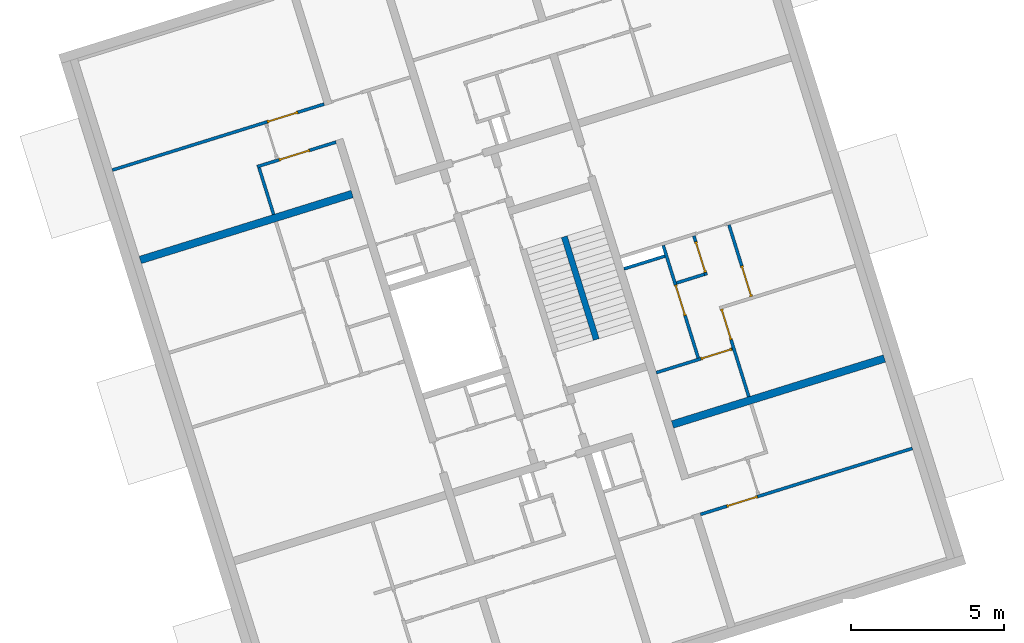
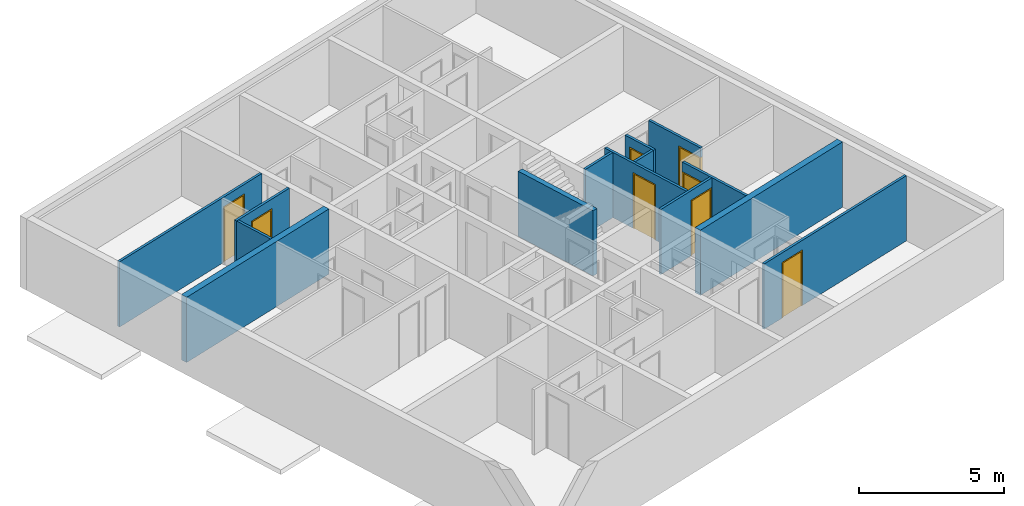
# One storey, part 4 of 9: 14 walls, 8 doors, 8 openings.
"""IFC4 building model written with IfcOpenShell, lengths in metres."""

from ifc_helpers import new_model, entity, si_unit, converted_unit, direction, frame, origin, place, context, subcontext, project, spatial, indexed_curve, outline, extrude, polygons, source, transform, mapped, material, constituent, constituent_set, type_object, type_shapes, element, fill, save


model = new_model("IFC4")

# Units and contexts
model_context = context("Model", 3, precision=1e-05, world=origin(), true_north=direction((6.12323399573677e-17, 1.0)))
body_context = subcontext(model_context, "Body", "Model", "MODEL_VIEW")
ifc_project = project(units=[si_unit("LENGTHUNIT", "METRE"), si_unit("AREAUNIT", "SQUARE_METRE"), si_unit("VOLUMEUNIT", "CUBIC_METRE"), converted_unit("PLANEANGLEUNIT", "DEGREE", entity("IfcPlaneAngleMeasure", 0.0174532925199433), si_unit("PLANEANGLEUNIT", "RADIAN"), dimensions=[0, 0, 0, 0, 0, 0, 0])], contexts=[model_context])

# Site, building, storey
site_placement = place(None, frame((13.1347999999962, 11.9886000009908, 0.0), z_axis=(0.0, 0.0, 1.0), x_axis=(0.954770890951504, 0.297342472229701, 0.0)))
site = spatial("IfcSite", under=ifc_project, at=site_placement, Name="Schiehaven", CompositionType="ELEMENT")
building_placement = place(site_placement, origin())
building = spatial("IfcBuilding", under=site, at=building_placement, Name="VORM huis", CompositionType="ELEMENT")
storey_placement = place(building_placement, frame((0.0, 0.0, 18.9)))
storey = spatial("IfcBuildingStorey", under=building, at=storey_placement, Name="06 zesde verdieping", CompositionType="ELEMENT", Elevation=18.9)

# Walls
ifc_material_1 = material(Name="beton_gewapend_prefab-element", Category="Miscellaneous")
wall_type_1 = type_object("IfcWallType", Name="Basic Wall:28_WA_skelet_wand 200mm_gen", PredefinedType="STANDARD")
wall_1_placement = place(storey_placement, frame((18.5750000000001, 15.29, 0.0), z_axis=(0.0, 0.0, 1.0), x_axis=(0.0, 1.0, 0.0)))
element("IfcWall", 1, at=wall_1_placement, inside=storey, type_object=wall_type_1, material=ifc_material_1, Name="Constructieve wand", ObjectType="Wand", PredefinedType="NOTDEFINED", context=body_context, shape_type="SweptSolid", body=[
    extrude(outline(indexed_curve([(3.52, 0.0999999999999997), (-6.36077049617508e-16, 0.0999999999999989), (6.36077049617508e-16, -0.0999999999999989), (3.52, -0.0999999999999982), (3.52, 0.0999999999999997)], self_intersect=False)), origin(), (0.0, 0.0, 1.0), 2.75),
])
ifc_material_2 = material(Name="ntb_ntb_ntb", Category="Miscellaneous")
wall_type_2 = type_object("IfcWallType", Name="Basic Wall:22_WA_afbouw_binnenwand 250mm_gen", PredefinedType="STANDARD")
wall_2_placement = place(storey_placement, frame((12.3750000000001, 22.2, 0.0), z_axis=(0.0, 0.0, 1.0), x_axis=(-1.0, 0.0, 0.0)))
element("IfcWall", 2, at=wall_2_placement, inside=storey, type_object=wall_type_2, material=ifc_material_2, Name="Binnenwand", ObjectType="Wand", PredefinedType="NOTDEFINED", context=body_context, shape_type="SweptSolid", body=[
    extrude(outline(indexed_curve([(7.24999999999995, 0.125000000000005), (-4.9649652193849e-16, 0.125000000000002), (4.9649652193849e-16, -0.125000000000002), (7.24999999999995, -0.124999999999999), (7.24999999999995, 0.125000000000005)], self_intersect=False)), origin(), (0.0, 0.0, 1.0), 2.75),
])
wall_3_placement = place(storey_placement, frame((20.125, 11.9, 0.0)))
element("IfcWall", 3, at=wall_3_placement, inside=storey, type_object=wall_type_2, material=ifc_material_2, Name="Binnenwand", ObjectType="Wand", PredefinedType="NOTDEFINED", context=body_context, shape_type="SweptSolid", body=[
    extrude(outline(indexed_curve([(7.24999999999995, 0.125), (-1.92055213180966e-16, 0.125), (1.92055213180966e-16, -0.125), (7.24999999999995, -0.124999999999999), (7.24999999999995, 0.125)], self_intersect=False)), origin(), (0.0, 0.0, 1.0), 2.75),
])

# Wall, opening, door
wall_type_3 = type_object("IfcWallType", Name="Basic Wall:22_WA_afbouw_binnenwand 100mm_gen", PredefinedType="STANDARD")
wall_4_placement = place(storey_placement, frame((27.3750000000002, 8.82499999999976, 0.0), z_axis=(0.0, 0.0, 1.0), x_axis=(-1.0, 0.0, 0.0)))
wall_4 = element("IfcWall", 4, at=wall_4_placement, inside=storey, type_object=wall_type_3, material=ifc_material_2, Name="Binnenwand", ObjectType="Wand", PredefinedType="NOTDEFINED", context=body_context, shape_type="Tessellation", body=[
    polygons([(6.35000000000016, -0.0500000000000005, 2.34999999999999), (6.35000000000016, -0.0500000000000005, 2.16573425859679e-15), (7.25000000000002, -0.0500000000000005, 2.16573425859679e-15), (7.25000000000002, -0.0500000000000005, 2.75), (5.30000000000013, -0.0500000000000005, 2.75), (5.20000000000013, -0.0500000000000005, 2.75), (5.16304195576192e-15, -0.0500000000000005, 2.75), (5.16304195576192e-15, -0.0500000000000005, 2.16573425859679e-15), (5.20000000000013, -0.0500000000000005, 2.16573425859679e-15), (5.30000000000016, -0.0500000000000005, 2.16573425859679e-15), (5.30000000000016, -0.0500000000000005, 2.34999999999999), (7.25000000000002, 0.0499999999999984, 2.16573425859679e-15), (6.35000000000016, 0.0499999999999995, 2.16573425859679e-15), (6.35000000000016, 0.0499999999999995, 2.34999999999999), (5.30000000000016, 0.0499999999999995, 2.34999999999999), (5.30000000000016, 0.0499999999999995, 2.16573425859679e-15), (4.86084043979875e-15, 0.0500000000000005, 2.16573425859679e-15), (4.86084043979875e-15, 0.0500000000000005, 2.75), (7.25000000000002, 0.0499999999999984, 2.75)], [[[1, 2, 3, 4, 5, 6, 7, 8, 9, 10, 11]], [[12, 13, 14, 15, 16, 17, 18, 19]], [[10, 9, 8, 17, 16]], [[4, 3, 12, 19]], [[7, 6, 5, 4, 19, 18]], [[8, 7, 18, 17]], [[16, 15, 11, 10]], [[14, 13, 2, 1]], [[15, 14, 1, 11]], [[3, 2, 13, 12]]], closed=True),
])
opening_1_placement = place(wall_4_placement, frame((6.35000000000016, 0.04999999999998, 0.0)))
opening_1 = element("IfcOpeningElement", 5, at=opening_1_placement, cuts=wall_4, Name="Binnendeur", PredefinedType="OPENING", context=body_context, shape_type="SweptSolid", body=[
    extrude(outline(indexed_curve([(2.34999999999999, 1.05), (0.0, 1.05), (0.0, 0.0), (2.34999999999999, 0.0), (2.34999999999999, 1.05)], self_intersect=False)), frame((0.0, 0.0, 0.0), z_axis=(0.0, -1.0, 0.0), x_axis=(0.0, 0.0, 1.0)), (0.0, 0.0, 1.0), 0.1),
])
ifc_material_3 = material(Name="PD_a_binnenwandopeningen", Category="Miscellaneous")
ifc_constituent_1 = constituent(ifc_material_3, Name="PD_a_binnenwandopeningen", Category="Miscellaneous")
ifc_material_4 = material(Name="metaal_aluminium_ntb", Category="Miscellaneous")
ifc_constituent_2 = constituent(ifc_material_4, Name="metaal_aluminium_ntb", Category="Miscellaneous")
ifc_constituent_set_1 = constituent_set(constituents=[ifc_constituent_1, ifc_constituent_2])
door_type = type_object("IfcDoorType", Name="32_DO_binnendeur enkel:binnendeur", OperationType="REVOLVING", PredefinedType="DOOR")
shared_shape = source(origin(), body_context, "Body", "SweptSolid", [
    extrude(outline(indexed_curve([(-1.16249999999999, -0.525000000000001), (1.18749999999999, -0.525), (1.18749999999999, 0.525), (-1.16249999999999, 0.525), (-1.16249999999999, 0.475), (1.13749999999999, 0.475), (1.13749999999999, -0.475), (-1.16249999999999, -0.475), (-1.16249999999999, -0.525000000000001)], self_intersect=False)), frame((0.525000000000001, 0.0, 1.16249999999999), z_axis=(0.0, 1.0, 0.0), x_axis=(0.0, 0.0, 1.0)), (0.0, 0.0, 1.0), 0.1),
    extrude(outline(indexed_curve([(-0.025, -0.475), (0.025, -0.475), (0.025, 0.475), (-0.025, 0.475), (-0.025, -0.475)], self_intersect=False)), frame((0.525000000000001, 0.0499999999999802, 0.0), z_axis=(0.0, 0.0, 1.0), x_axis=(0.0, 1.0, 0.0)), (0.0, 0.0, 1.0), 2.29999999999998),
])
type_shapes(door_type, [shared_shape])
door_1_placement = place(opening_1_placement, frame((0.0, 0.0, 0.0), z_axis=(0.0, 0.0, 1.0), x_axis=(-1.0, 0.0, 0.0)))
door_1 = element("IfcDoor", 6, at=door_1_placement, inside=storey, type_object=door_type, material=ifc_constituent_set_1, Name="Binnendeur", ObjectType="Deur", OperationType="REVOLVING", OverallHeight=2.34999999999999, OverallWidth=1.05, PredefinedType="DOOR", context=body_context, shape_type="MappedRepresentation", body=[
    mapped(shared_shape, transform((0.0, 0.0, 0.0), scale=1.0)),
])
fill(opening_1, door_1)

wall_5_placement = place(storey_placement, frame((22.6250000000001, 16.225, 0.0), z_axis=(0.0, 0.0, 1.0), x_axis=(0.0, 1.0, 0.0)))
wall_5 = element("IfcWall", 7, at=wall_5_placement, inside=storey, type_object=wall_type_3, material=ifc_material_2, Name="Binnenwand", ObjectType="Wand", PredefinedType="NOTDEFINED", context=body_context, shape_type="Tessellation", body=[
    polygons([(1.15, -0.0499999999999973, 2.34999999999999), (1.15, -0.0499999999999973, 2.16573425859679e-15), (1.35, -0.0499999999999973, 2.16573425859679e-15), (1.35, -0.0499999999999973, 2.75), (0.0, -0.0499999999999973, 2.75), (0.0, -0.0499999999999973, 2.16573425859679e-15), (0.100000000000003, -0.0499999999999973, 2.16573425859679e-15), (0.100000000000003, -0.0499999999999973, 2.34999999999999), (1.35, 0.0500000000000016, 2.16573425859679e-15), (1.15, 0.0500000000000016, 2.16573425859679e-15), (1.15, 0.0500000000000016, 2.34999999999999), (0.100000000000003, 0.0500000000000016, 2.34999999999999), (0.100000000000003, 0.0500000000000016, 2.16573425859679e-15), (0.0, 0.0500000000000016, 2.16573425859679e-15), (0.0, 0.0500000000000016, 2.75), (0.100000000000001, 0.0500000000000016, 2.75), (1.35, 0.0500000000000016, 2.75)], [[[1, 2, 3, 4, 5, 6, 7, 8]], [[9, 10, 11, 12, 13, 14, 15, 16, 17]], [[7, 6, 14, 13]], [[5, 4, 17, 16, 15]], [[13, 12, 8, 7]], [[11, 10, 2, 1]], [[12, 11, 1, 8]], [[6, 5, 15, 14]], [[4, 3, 9, 17]], [[3, 2, 10, 9]]], closed=True),
])
opening_2_placement = place(wall_5_placement, frame((1.15000000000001, 0.0500000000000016, 0.0)))
opening_2 = element("IfcOpeningElement", 8, at=opening_2_placement, cuts=wall_5, Name="Binnendeur", PredefinedType="OPENING", context=body_context, shape_type="SweptSolid", body=[
    extrude(outline(indexed_curve([(2.34999999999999, 1.05), (0.0, 1.05), (0.0, 1.35358391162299e-15), (2.34999999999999, 1.35358391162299e-15), (2.34999999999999, 1.05)], self_intersect=False)), frame((0.0, 0.0, 0.0), z_axis=(0.0, -1.0, 0.0), x_axis=(0.0, 0.0, 1.0)), (0.0, 0.0, 1.0), 0.1),
])
ifc_constituent_3 = constituent(ifc_material_3, Name="PD_a_binnenwandopeningen", Category="Miscellaneous")
ifc_constituent_4 = constituent(ifc_material_4, Name="metaal_aluminium_ntb", Category="Miscellaneous")
ifc_constituent_set_2 = constituent_set(constituents=[ifc_constituent_3, ifc_constituent_4])
door_2_placement = place(opening_2_placement, frame((0.0, 0.0, 0.0), z_axis=(0.0, 0.0, 1.0), x_axis=(-1.0, 0.0, 0.0)))
door_2 = element("IfcDoor", 9, at=door_2_placement, inside=storey, type_object=door_type, material=ifc_constituent_set_2, Name="Binnendeur", ObjectType="Deur", OperationType="REVOLVING", OverallHeight=2.34999999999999, OverallWidth=1.05, PredefinedType="DOOR", context=body_context, shape_type="MappedRepresentation", body=[
    mapped(shared_shape, transform((0.0, 0.0, 0.0), scale=1.0)),
])
fill(opening_2, door_2)

# Walls
wall_6_placement = place(storey_placement, frame((21.6250000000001, 16.275, 0.0)))
element("IfcWall", 10, at=wall_6_placement, inside=storey, type_object=wall_type_3, material=ifc_material_2, Name="Binnenwand", ObjectType="Wand", PredefinedType="NOTDEFINED", context=body_context, shape_type="SweptSolid", body=[
    extrude(outline(indexed_curve([(0.950000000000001, 0.0499999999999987), (-1.88291440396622e-16, 0.0499999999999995), (1.88291440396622e-16, -0.0499999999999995), (0.950000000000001, -0.0500000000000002), (0.950000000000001, 0.0499999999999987)], self_intersect=False)), origin(), (0.0, 0.0, 1.0), 2.75),
])
wall_7_placement = place(storey_placement, frame((20.1228357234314, 17.225, 0.0)))
element("IfcWall", 11, at=wall_7_placement, inside=storey, type_object=wall_type_3, material=ifc_material_2, Name="Binnenwand", ObjectType="Wand", PredefinedType="NOTDEFINED", context=body_context, shape_type="SweptSolid", body=[
    extrude(outline(indexed_curve([(1.40216427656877, 0.0500000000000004), (-1.88291440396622e-16, 0.0499999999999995), (1.88291440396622e-16, -0.0499999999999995), (1.40216427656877, -0.0499999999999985), (1.40216427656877, 0.0500000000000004)], self_intersect=False)), origin(), (0.0, 0.0, 1.0), 2.75),
])

# Wall, opening, door
wall_8_placement = place(storey_placement, frame((23.8250000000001, 15.125, 0.0), z_axis=(0.0, 0.0, 1.0), x_axis=(0.0, 1.0, 0.0)))
wall_8 = element("IfcWall", 12, at=wall_8_placement, inside=storey, type_object=wall_type_3, material=ifc_material_2, Name="Binnenwand", ObjectType="Wand", PredefinedType="NOTDEFINED", context=body_context, shape_type="Tessellation", body=[
    polygons([(2.45, -0.0499999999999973, 2.75), (0.0, -0.0499999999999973, 2.75), (0.0, -0.0499999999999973, 2.34999999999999), (1.05, -0.0499999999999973, 2.34999999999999), (1.05, -0.0499999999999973, 2.16573425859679e-15), (2.45, -0.0499999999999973, 2.16573425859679e-15), (0.0, 0.0500000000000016, 2.75), (2.45, 0.0500000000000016, 2.75), (2.45, 0.0500000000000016, 2.16573425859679e-15), (1.05, 0.0500000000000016, 2.16573425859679e-15), (1.05, 0.0500000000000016, 2.34999999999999), (0.0, 0.0500000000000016, 2.34999999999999)], [[[1, 2, 3, 4, 5, 6]], [[7, 8, 9, 10, 11, 12]], [[9, 6, 5, 10]], [[2, 1, 8, 7]], [[4, 11, 10, 5]], [[11, 4, 3, 12]], [[2, 7, 12, 3]], [[1, 6, 9, 8]]], closed=True),
])
opening_3_placement = place(wall_8_placement, frame((0.0, -0.050000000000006, 0.0)))
opening_3 = element("IfcOpeningElement", 13, at=opening_3_placement, cuts=wall_8, Name="Binnendeur", PredefinedType="OPENING", context=body_context, shape_type="SweptSolid", body=[
    extrude(outline(indexed_curve([(2.34999999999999, 1.05), (0.0, 1.05), (0.0, 1.35358391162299e-15), (2.34999999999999, 1.35358391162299e-15), (2.34999999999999, 1.05)], self_intersect=False)), frame((0.0, 0.0, 0.0), z_axis=(0.0, 1.0, 0.0), x_axis=(0.0, 0.0, 1.0)), (0.0, 0.0, 1.0), 0.1),
])
ifc_constituent_5 = constituent(ifc_material_3, Name="PD_a_binnenwandopeningen", Category="Miscellaneous")
ifc_constituent_6 = constituent(ifc_material_4, Name="metaal_aluminium_ntb", Category="Miscellaneous")
ifc_constituent_set_3 = constituent_set(constituents=[ifc_constituent_5, ifc_constituent_6])
door_3_placement = place(opening_3_placement, origin())
door_3 = element("IfcDoor", 14, at=door_3_placement, inside=storey, type_object=door_type, material=ifc_constituent_set_3, Name="Binnendeur", ObjectType="Deur", OperationType="REVOLVING", OverallHeight=2.34999999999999, OverallWidth=1.05, PredefinedType="DOOR", context=body_context, shape_type="MappedRepresentation", body=[
    mapped(shared_shape, transform((0.0, 0.0, 0.0), scale=1.0)),
])
fill(opening_3, door_3)

wall_9_placement = place(storey_placement, frame((22.7750000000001, 12.025, 0.0), z_axis=(0.0, 0.0, 1.0), x_axis=(0.0, 1.0, 0.0)))
wall_9 = element("IfcWall", 15, at=wall_9_placement, inside=storey, type_object=wall_type_3, material=ifc_material_2, Name="Binnenwand", ObjectType="Wand", PredefinedType="NOTDEFINED", context=body_context, shape_type="Tessellation", body=[
    polygons([(3.00000000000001, -0.0499999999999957, 2.75), (0.0, -0.049999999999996, 2.75), (0.0, -0.049999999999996, 2.16573425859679e-15), (1.95000000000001, -0.0499999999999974, 2.16573425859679e-15), (1.95000000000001, -0.0499999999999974, 2.34999999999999), (3.00000000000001, -0.0499999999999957, 2.34999999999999), (0.0, 0.0500000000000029, 2.75), (1.60000000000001, 0.050000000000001, 2.75), (1.70000000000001, 0.0500000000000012, 2.75), (3.00000000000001, 0.0500000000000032, 2.75), (3.00000000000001, 0.0500000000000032, 2.34999999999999), (1.95000000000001, 0.0500000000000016, 2.34999999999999), (1.95000000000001, 0.0500000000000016, 2.16573425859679e-15), (1.70000000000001, 0.0500000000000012, 2.16573425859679e-15), (1.60000000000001, 0.050000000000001, 2.16573425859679e-15), (0.0, 0.0500000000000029, 2.16573425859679e-15)], [[[1, 2, 3, 4, 5, 6]], [[7, 8, 9, 10, 11, 12, 13, 14, 15, 16]], [[3, 16, 15, 14, 13, 4]], [[2, 1, 10, 9, 8, 7]], [[3, 2, 7, 16]], [[12, 5, 4, 13]], [[5, 12, 11, 6]], [[10, 1, 6, 11]]], closed=True),
])
opening_4_placement = place(wall_9_placement, frame((1.95000000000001, -0.0500000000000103, 0.0)))
opening_4 = element("IfcOpeningElement", 16, at=opening_4_placement, cuts=wall_9, Name="Binnendeur", PredefinedType="OPENING", context=body_context, shape_type="SweptSolid", body=[
    extrude(outline(indexed_curve([(2.34999999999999, 1.05), (0.0, 1.05), (0.0, 1.35358391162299e-15), (2.34999999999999, 1.35358391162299e-15), (2.34999999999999, 1.05)], self_intersect=False)), frame((0.0, 0.0, 0.0), z_axis=(0.0, 1.0, 0.0), x_axis=(0.0, 0.0, 1.0)), (0.0, 0.0, 1.0), 0.1),
])
ifc_constituent_7 = constituent(ifc_material_3, Name="PD_a_binnenwandopeningen", Category="Miscellaneous")
ifc_constituent_8 = constituent(ifc_material_4, Name="metaal_aluminium_ntb", Category="Miscellaneous")
ifc_constituent_set_4 = constituent_set(constituents=[ifc_constituent_7, ifc_constituent_8])
door_4_placement = place(opening_4_placement, origin())
door_4 = element("IfcDoor", 17, at=door_4_placement, inside=storey, type_object=door_type, material=ifc_constituent_set_4, Name="Binnendeur", ObjectType="Deur", OperationType="REVOLVING", OverallHeight=2.34999999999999, OverallWidth=1.05, PredefinedType="DOOR", context=body_context, shape_type="MappedRepresentation", body=[
    mapped(shared_shape, transform((0.0, 0.0, 0.0), scale=1.0)),
])
fill(opening_4, door_4)

wall_10_placement = place(storey_placement, frame((22.7250000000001, 13.675, 0.0), z_axis=(0.0, 0.0, 1.0), x_axis=(-1.0, 0.0, 0.0)))
wall_10 = element("IfcWall", 18, at=wall_10_placement, inside=storey, type_object=wall_type_3, material=ifc_material_2, Name="Binnenwand", ObjectType="Wand", PredefinedType="NOTDEFINED", context=body_context, shape_type="Tessellation", body=[
    polygons([(1.075, -0.0499999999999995, 2.34999999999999), (1.075, -0.0499999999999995, 2.16573425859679e-15), (1.1, -0.0499999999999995, 2.16573425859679e-15), (1.2, -0.0499999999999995, 2.16573425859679e-15), (2.59999999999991, -0.0500000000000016, 2.16573425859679e-15), (2.59999999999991, -0.0500000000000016, 2.75), (1.2, -0.0499999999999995, 2.75), (1.1, -0.0499999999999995, 2.75), (1.50273447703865e-15, -0.0500000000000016, 2.75), (1.50273447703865e-15, -0.0500000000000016, 2.16573425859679e-15), (0.0250000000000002, -0.0500000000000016, 2.16573425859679e-15), (0.0250000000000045, -0.0500000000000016, 2.34999999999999), (2.59999999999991, 0.0500000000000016, 2.16573425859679e-15), (1.075, 0.0500000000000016, 2.16573425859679e-15), (1.075, 0.0500000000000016, 2.34999999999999), (0.0250000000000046, 0.0499999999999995, 2.34999999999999), (0.0250000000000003, 0.0499999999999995, 2.16573425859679e-15), (1.64958043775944e-15, 0.0499999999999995, 2.16573425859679e-15), (1.64958043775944e-15, 0.0499999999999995, 2.75), (2.59999999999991, 0.0500000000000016, 2.75)], [[[1, 2, 3, 4, 5, 6, 7, 8, 9, 10, 11, 12]], [[13, 14, 15, 16, 17, 18, 19, 20]], [[11, 10, 18, 17]], [[6, 5, 13, 20]], [[9, 8, 7, 6, 20, 19]], [[17, 16, 12, 11]], [[15, 14, 2, 1]], [[16, 15, 1, 12]], [[10, 9, 19, 18]], [[5, 4, 3, 2, 14, 13]]], closed=True),
])
opening_5_placement = place(wall_10_placement, frame((1.075, 0.050000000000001, 0.0)))
opening_5 = element("IfcOpeningElement", 19, at=opening_5_placement, cuts=wall_10, Name="Binnendeur", PredefinedType="OPENING", context=body_context, shape_type="SweptSolid", body=[
    extrude(outline(indexed_curve([(2.34999999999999, 1.05), (0.0, 1.05), (0.0, 2.27341277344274e-30), (2.34999999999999, 2.27341277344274e-30), (2.34999999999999, 1.05)], self_intersect=False)), frame((0.0, 0.0, 0.0), z_axis=(0.0, -1.0, 0.0), x_axis=(0.0, 0.0, 1.0)), (0.0, 0.0, 1.0), 0.1),
])
ifc_constituent_9 = constituent(ifc_material_3, Name="PD_a_binnenwandopeningen", Category="Miscellaneous")
ifc_constituent_10 = constituent(ifc_material_4, Name="metaal_aluminium_ntb", Category="Miscellaneous")
ifc_constituent_set_5 = constituent_set(constituents=[ifc_constituent_9, ifc_constituent_10])
door_5_placement = place(opening_5_placement, frame((0.0, 0.0, 0.0), z_axis=(0.0, 0.0, 1.0), x_axis=(-1.0, 0.0, 0.0)))
door_5 = element("IfcDoor", 20, at=door_5_placement, inside=storey, type_object=door_type, material=ifc_constituent_set_5, Name="Binnendeur", ObjectType="Deur", OperationType="REVOLVING", OverallHeight=2.34999999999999, OverallWidth=1.05, PredefinedType="DOOR", context=body_context, shape_type="MappedRepresentation", body=[
    mapped(shared_shape, transform((0.0, 0.0, 0.0), scale=1.0)),
])
fill(opening_5, door_5)

wall_11_placement = place(storey_placement, frame((21.5750000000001, 13.725, 0.0), z_axis=(0.0, 0.0, 1.0), x_axis=(0.0, 1.0, 0.0)))
wall_11 = element("IfcWall", 21, at=wall_11_placement, inside=storey, type_object=wall_type_3, material=ifc_material_2, Name="Binnenwand", ObjectType="Wand", PredefinedType="NOTDEFINED", context=body_context, shape_type="Tessellation", body=[
    polygons([(2.50000000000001, -0.0499999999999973, 2.34999999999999), (2.50000000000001, -0.0499999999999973, 2.16573425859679e-15), (2.60000000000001, -0.0499999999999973, 2.16573425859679e-15), (3.85000000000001, -0.0499999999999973, 2.16573425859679e-15), (3.85000000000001, -0.0499999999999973, 2.75), (2.60000000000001, -0.0499999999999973, 2.75), (2.50000000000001, -0.0499999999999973, 2.75), (2.16573425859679e-15, -0.0499999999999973, 2.75), (0.0, -0.0499999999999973, 2.16573425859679e-15), (1.45000000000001, -0.0499999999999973, 2.16573425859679e-15), (1.45000000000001, -0.0499999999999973, 2.34999999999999), (3.85000000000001, 0.0500000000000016, 2.16573425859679e-15), (3.55000000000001, 0.0500000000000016, 2.16573425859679e-15), (3.45000000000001, 0.0500000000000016, 2.16573425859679e-15), (2.50000000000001, 0.0500000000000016, 2.16573425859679e-15), (2.50000000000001, 0.0500000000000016, 2.34999999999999), (1.45000000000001, 0.0500000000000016, 2.34999999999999), (1.45000000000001, 0.0500000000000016, 2.16573425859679e-15), (0.0, 0.0500000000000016, 2.16573425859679e-15), (0.0, 0.0500000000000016, 2.75), (3.45000000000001, 0.0500000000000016, 2.75), (3.55000000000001, 0.0500000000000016, 2.75), (3.85000000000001, 0.0500000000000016, 2.75)], [[[1, 2, 3, 4, 5, 6, 7, 8, 9, 10, 11]], [[12, 13, 14, 15, 16, 17, 18, 19, 20, 21, 22, 23]], [[10, 9, 19, 18]], [[8, 7, 6, 5, 23, 22, 21, 20]], [[18, 17, 11, 10]], [[16, 15, 2, 1]], [[17, 16, 1, 11]], [[9, 8, 20, 19]], [[5, 4, 12, 23]], [[4, 3, 2, 15, 14, 13, 12]]], closed=True),
])
opening_6_placement = place(wall_11_placement, frame((2.50000000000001, 0.0499999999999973, 0.0)))
opening_6 = element("IfcOpeningElement", 22, at=opening_6_placement, cuts=wall_11, Name="Binnendeur", PredefinedType="OPENING", context=body_context, shape_type="SweptSolid", body=[
    extrude(outline(indexed_curve([(2.34999999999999, 1.05), (0.0, 1.05), (0.0, 1.08286712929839e-15), (2.34999999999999, 1.08286712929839e-15), (2.34999999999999, 1.05)], self_intersect=False)), frame((0.0, 0.0, 0.0), z_axis=(0.0, -1.0, 0.0), x_axis=(0.0, 0.0, 1.0)), (0.0, 0.0, 1.0), 0.1),
])
ifc_constituent_11 = constituent(ifc_material_3, Name="PD_a_binnenwandopeningen", Category="Miscellaneous")
ifc_constituent_12 = constituent(ifc_material_4, Name="metaal_aluminium_ntb", Category="Miscellaneous")
ifc_constituent_set_6 = constituent_set(constituents=[ifc_constituent_11, ifc_constituent_12])
door_6_placement = place(opening_6_placement, frame((0.0, 0.0, 0.0), z_axis=(0.0, 0.0, 1.0), x_axis=(-1.0, 0.0, 0.0)))
door_6 = element("IfcDoor", 23, at=door_6_placement, inside=storey, type_object=door_type, material=ifc_constituent_set_6, Name="Binnendeur", ObjectType="Deur", OperationType="REVOLVING", OverallHeight=2.34999999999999, OverallWidth=1.05, PredefinedType="DOOR", context=body_context, shape_type="MappedRepresentation", body=[
    mapped(shared_shape, transform((0.0, 0.0, 0.0), scale=1.0)),
])
fill(opening_6, door_6)

wall_12_placement = place(storey_placement, frame((9.6750000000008, 23.9750000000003, 0.0)))
wall_12 = element("IfcWall", 24, at=wall_12_placement, inside=storey, type_object=wall_type_3, material=ifc_material_2, Name="Binnenwand", ObjectType="Wand", PredefinedType="NOTDEFINED", context=body_context, shape_type="Tessellation", body=[
    polygons([(1.04557742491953e-15, -0.0499999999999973, 2.16573425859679e-15), (0.100000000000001, -0.0499999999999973, 2.16573425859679e-15), (0.750000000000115, -0.0499999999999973, 2.16573425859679e-15), (0.750000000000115, -0.0499999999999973, 2.34999999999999), (1.80000000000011, -0.0499999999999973, 2.34999999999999), (1.80000000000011, -0.0499999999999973, 2.16573425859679e-15), (2.69999999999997, -0.0499999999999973, 2.16573425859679e-15), (2.69999999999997, -0.0499999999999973, 2.75), (0.100000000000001, -0.0499999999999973, 2.75), (-1.12015683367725e-15, -0.0499999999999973, 2.75), (0.750000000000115, 0.0500000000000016, 2.34999999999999), (0.750000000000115, 0.0500000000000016, 2.16573425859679e-15), (0.650000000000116, 0.0500000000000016, 2.16573425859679e-15), (8.10064863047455e-16, 0.0500000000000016, 2.16573425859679e-15), (8.10064863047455e-16, 0.0500000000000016, 2.75), (0.650000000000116, 0.0500000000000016, 2.75), (0.750000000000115, 0.0500000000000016, 2.75), (2.69999999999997, 0.0500000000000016, 2.75), (2.69999999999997, 0.0500000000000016, 2.16573425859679e-15), (1.80000000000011, 0.0500000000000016, 2.16573425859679e-15), (1.80000000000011, 0.0500000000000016, 2.34999999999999)], [[[1, 2, 3, 4, 5, 6, 7, 8, 9, 10]], [[11, 12, 13, 14, 15, 16, 17, 18, 19, 20, 21]], [[14, 13, 12, 3, 2, 1]], [[8, 7, 19, 18]], [[10, 9, 8, 18, 17, 16, 15]], [[6, 5, 21, 20]], [[4, 3, 12, 11]], [[5, 4, 11, 21]], [[1, 10, 15, 14]], [[20, 19, 7, 6]]], closed=True),
])
opening_7_placement = place(wall_12_placement, frame((0.750000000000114, -0.050000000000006, 0.0)))
opening_7 = element("IfcOpeningElement", 25, at=opening_7_placement, cuts=wall_12, Name="Binnendeur", PredefinedType="OPENING", context=body_context, shape_type="SweptSolid", body=[
    extrude(outline(indexed_curve([(2.34999999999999, 1.05), (0.0, 1.05), (0.0, 1.35358391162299e-15), (2.34999999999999, 1.35358391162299e-15), (2.34999999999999, 1.05)], self_intersect=False)), frame((0.0, 0.0, 0.0), z_axis=(0.0, 1.0, 0.0), x_axis=(0.0, 0.0, 1.0)), (0.0, 0.0, 1.0), 0.1),
])
ifc_constituent_13 = constituent(ifc_material_3, Name="PD_a_binnenwandopeningen", Category="Miscellaneous")
ifc_constituent_14 = constituent(ifc_material_4, Name="metaal_aluminium_ntb", Category="Miscellaneous")
ifc_constituent_set_7 = constituent_set(constituents=[ifc_constituent_13, ifc_constituent_14])
door_7_placement = place(opening_7_placement, origin())
door_7 = element("IfcDoor", 26, at=door_7_placement, inside=storey, type_object=door_type, material=ifc_constituent_set_7, Name="Binnendeur", ObjectType="Deur", OperationType="REVOLVING", OverallHeight=2.34999999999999, OverallWidth=1.05, PredefinedType="DOOR", context=body_context, shape_type="MappedRepresentation", body=[
    mapped(shared_shape, transform((0.0, 0.0, 0.0), scale=1.0)),
])
fill(opening_7, door_7)

wall_13_placement = place(storey_placement, frame((5.12500000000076, 25.2750000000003, 0.0)))
wall_13 = element("IfcWall", 27, at=wall_13_placement, inside=storey, type_object=wall_type_3, material=ifc_material_2, Name="Binnenwand", ObjectType="Wand", PredefinedType="NOTDEFINED", context=body_context, shape_type="Tessellation", body=[
    polygons([(6.35000000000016, -0.0499999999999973, 2.34999999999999), (6.35000000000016, -0.0499999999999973, 2.16573425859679e-15), (7.25000000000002, -0.0499999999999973, 2.16573425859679e-15), (7.25000000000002, -0.0499999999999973, 2.75), (5.30000000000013, -0.0499999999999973, 2.75), (5.20000000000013, -0.0499999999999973, 2.75), (1.49648379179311e-16, -0.0499999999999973, 2.75), (1.49648379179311e-16, -0.0499999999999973, 2.16573425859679e-15), (5.20000000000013, -0.0499999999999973, 2.16573425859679e-15), (5.30000000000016, -0.0499999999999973, 2.16573425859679e-15), (5.30000000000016, -0.0499999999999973, 2.34999999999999), (7.25000000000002, 0.0500000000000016, 2.16573425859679e-15), (6.35000000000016, 0.0500000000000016, 2.16573425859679e-15), (6.35000000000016, 0.0500000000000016, 2.34999999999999), (5.30000000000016, 0.0500000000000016, 2.34999999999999), (5.30000000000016, 0.0500000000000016, 2.16573425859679e-15), (-8.58641826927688e-17, 0.0500000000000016, 2.16573425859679e-15), (-8.58641826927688e-17, 0.0500000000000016, 2.75), (7.25000000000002, 0.0500000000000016, 2.75)], [[[1, 2, 3, 4, 5, 6, 7, 8, 9, 10, 11]], [[12, 13, 14, 15, 16, 17, 18, 19]], [[10, 9, 8, 17, 16]], [[4, 3, 12, 19]], [[7, 6, 5, 4, 19, 18]], [[8, 7, 18, 17]], [[16, 15, 11, 10]], [[14, 13, 2, 1]], [[15, 14, 1, 11]], [[3, 2, 13, 12]]], closed=True),
])
opening_8_placement = place(wall_13_placement, frame((6.35000000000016, 0.049999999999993, 0.0)))
opening_8 = element("IfcOpeningElement", 28, at=opening_8_placement, cuts=wall_13, Name="Binnendeur", PredefinedType="OPENING", context=body_context, shape_type="SweptSolid", body=[
    extrude(outline(indexed_curve([(2.34999999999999, 1.05), (0.0, 1.05), (0.0, 1.08286712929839e-15), (2.34999999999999, 1.08286712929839e-15), (2.34999999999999, 1.05)], self_intersect=False)), frame((0.0, 0.0, 0.0), z_axis=(0.0, -1.0, 0.0), x_axis=(0.0, 0.0, 1.0)), (0.0, 0.0, 1.0), 0.1),
])
ifc_constituent_15 = constituent(ifc_material_3, Name="PD_a_binnenwandopeningen", Category="Miscellaneous")
ifc_constituent_16 = constituent(ifc_material_4, Name="metaal_aluminium_ntb", Category="Miscellaneous")
ifc_constituent_set_8 = constituent_set(constituents=[ifc_constituent_15, ifc_constituent_16])
door_8_placement = place(opening_8_placement, frame((0.0, 0.0, 0.0), z_axis=(0.0, 0.0, 1.0), x_axis=(-1.0, 0.0, 0.0)))
door_8 = element("IfcDoor", 29, at=door_8_placement, inside=storey, type_object=door_type, material=ifc_constituent_set_8, Name="Binnendeur", ObjectType="Deur", OperationType="REVOLVING", OverallHeight=2.34999999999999, OverallWidth=1.05, PredefinedType="DOOR", context=body_context, shape_type="MappedRepresentation", body=[
    mapped(shared_shape, transform((0.0, 0.0, 0.0), scale=1.0)),
])
fill(opening_8, door_8)

# Wall
wall_14_placement = place(storey_placement, frame((9.7250000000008, 23.9250000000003, 0.0), z_axis=(0.0, 0.0, 1.0), x_axis=(0.0, -1.0, 0.0)))
element("IfcWall", 30, at=wall_14_placement, inside=storey, type_object=wall_type_3, material=ifc_material_2, Name="Binnenwand", ObjectType="Wand", PredefinedType="NOTDEFINED", context=body_context, shape_type="SweptSolid", body=[
    extrude(outline(indexed_curve([(1.60000000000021, 0.0500000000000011), (-8.47752397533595e-17, 0.0500000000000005), (8.47752397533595e-17, -0.0500000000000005), (1.60000000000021, -0.0500000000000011), (1.60000000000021, 0.0500000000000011)], self_intersect=False)), origin(), (0.0, 0.0, 1.0), 2.75),
])

save(model, "model.ifc")
